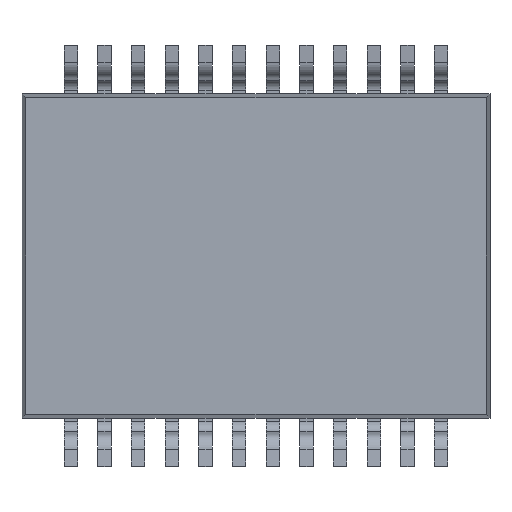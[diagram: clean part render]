
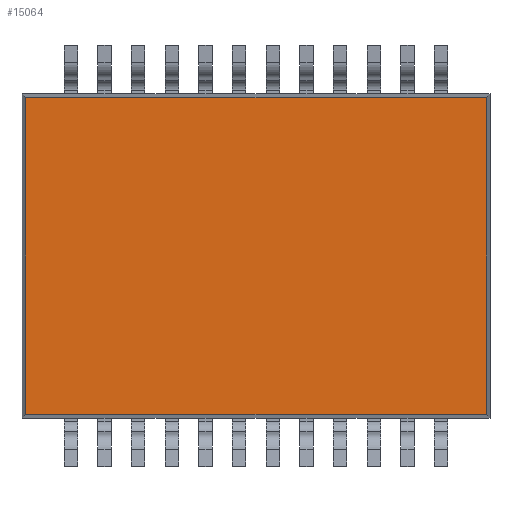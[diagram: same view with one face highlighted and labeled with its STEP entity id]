
A CAD part, front view. The second image highlights one B-rep face of the part: STEP entity #15064.
In plain terms, the highlighted planar face has unit normal (0, -1, 0).
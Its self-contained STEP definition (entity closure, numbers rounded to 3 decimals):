
#121 = VECTOR ( 'NONE', #13818, 1000. ) ;
#1072 = CARTESIAN_POINT ( 'NONE',  ( 8.826, -2.73, 5.978 ) ) ;
#1464 = DIRECTION ( 'NONE',  ( 0., 0., -1. ) ) ;
#2108 = ORIENTED_EDGE ( 'NONE', *, *, #10758, .F. ) ;
#2217 = DIRECTION ( 'NONE',  ( -1., 0., 0. ) ) ;
#2480 = CARTESIAN_POINT ( 'NONE',  ( -8.684, -2.731, 5.978 ) ) ;
#3002 = CARTESIAN_POINT ( 'NONE',  ( -8.684, -2.731, -5.978 ) ) ;
#4003 = EDGE_CURVE ( 'NONE', #13252, #12642, #10821, .T. ) ;
#4055 = CARTESIAN_POINT ( 'NONE',  ( 8.826, -2.73, 6.12 ) ) ;
#4238 = VECTOR ( 'NONE', #2217, 1000. ) ;
#4768 = VECTOR ( 'NONE', #1464, 1000. ) ;
#5077 = AXIS2_PLACEMENT_3D ( 'NONE', #4055, #12746, #5297 ) ;
#5297 = DIRECTION ( 'NONE',  ( -1., 0., 0. ) ) ;
#5371 = ORIENTED_EDGE ( 'NONE', *, *, #8301, .F. ) ;
#6405 = CARTESIAN_POINT ( 'NONE',  ( 8.684, -2.731, 5.978 ) ) ;
#7091 = CARTESIAN_POINT ( 'NONE',  ( 8.826, -2.73, -5.978 ) ) ;
#7347 = ORIENTED_EDGE ( 'NONE', *, *, #14477, .F. ) ;
#7648 = VERTEX_POINT ( 'NONE', #2480 ) ;
#8301 = EDGE_CURVE ( 'NONE', #12642, #7648, #9658, .T. ) ;
#8385 = LINE ( 'NONE', #10151, #4768 ) ;
#9658 = LINE ( 'NONE', #11275, #121 ) ;
#10151 = CARTESIAN_POINT ( 'NONE',  ( 8.684, -2.73, 6.12 ) ) ;
#10528 = FACE_OUTER_BOUND ( 'NONE', #13434, .T. ) ;
#10758 = EDGE_CURVE ( 'NONE', #7648, #10913, #11977, .T. ) ;
#10821 = LINE ( 'NONE', #7091, #4238 ) ;
#10913 = VERTEX_POINT ( 'NONE', #6405 ) ;
#11275 = CARTESIAN_POINT ( 'NONE',  ( -8.684, -2.731, 6.12 ) ) ;
#11550 = VECTOR ( 'NONE', #14839, 1000. ) ;
#11977 = LINE ( 'NONE', #1072, #11550 ) ;
#12604 = CARTESIAN_POINT ( 'NONE',  ( 8.684, -2.73, -5.978 ) ) ;
#12642 = VERTEX_POINT ( 'NONE', #3002 ) ;
#12746 = DIRECTION ( 'NONE',  ( 0., 1., 0. ) ) ;
#12895 = ORIENTED_EDGE ( 'NONE', *, *, #4003, .F. ) ;
#13252 = VERTEX_POINT ( 'NONE', #12604 ) ;
#13434 = EDGE_LOOP ( 'NONE', ( #12895, #7347, #2108, #5371 ) ) ;
#13818 = DIRECTION ( 'NONE',  ( 0., 0., 1. ) ) ;
#13909 = PLANE ( 'NONE',  #5077 ) ;
#14477 = EDGE_CURVE ( 'NONE', #10913, #13252, #8385, .T. ) ;
#14839 = DIRECTION ( 'NONE',  ( 1., 0., 0. ) ) ;
#15064 = ADVANCED_FACE ( 'NONE', ( #10528 ), #13909, .F. ) ;
